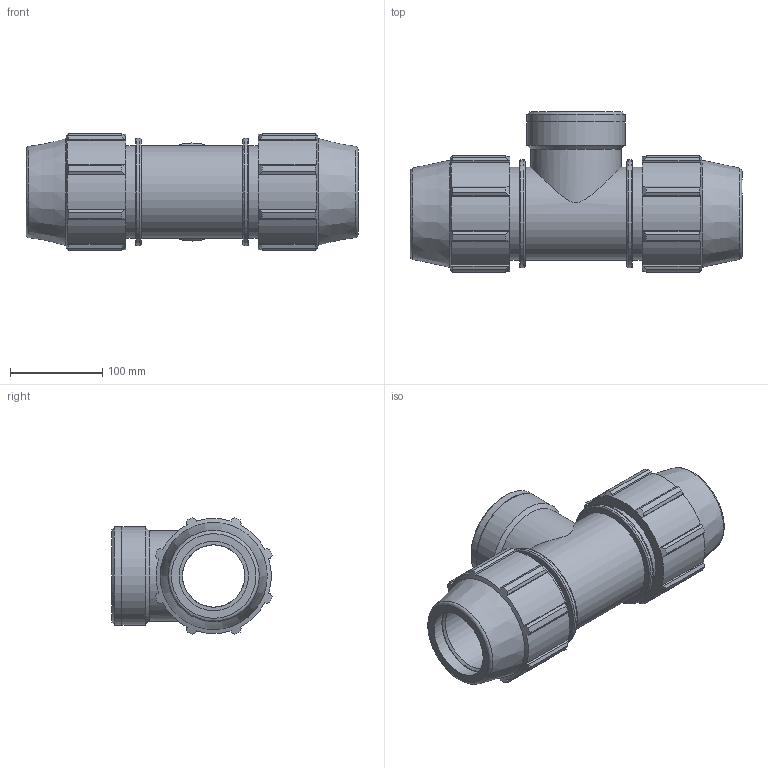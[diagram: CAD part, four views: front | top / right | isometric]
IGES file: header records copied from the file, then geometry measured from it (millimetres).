
Global section: file name: 0714060750300A.ipt; native system: Autodesk Inventor 2015; preprocessor: unknown; author: KIM; date: 20180325.201222; units: millimetre
Bounding box: 359 x 173.04 x 126.08 mm (x, y, z)
Volume: 2226289.6 mm3; surface area: 282477.8 mm2
Topology: 1 solids, 1 shells, 157 faces, 443 edges, 299 vertices
Faces by surface type: plane 79, cylinder 40, cone 23, revolution 15
Full cylindrical faces by diameter (mm): 97.665 x1, 100.5 x3, 106.157 x2, 116.58 x2
